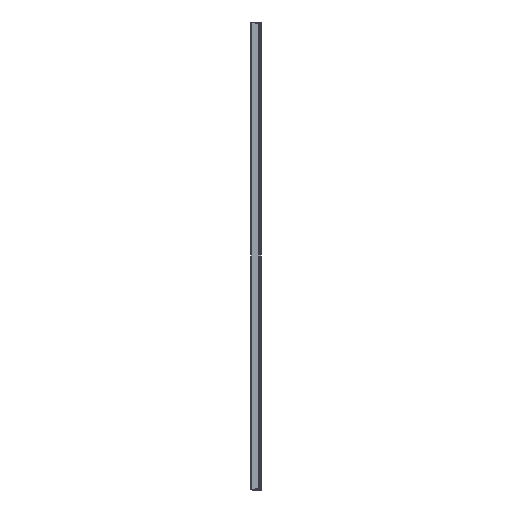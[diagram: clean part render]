
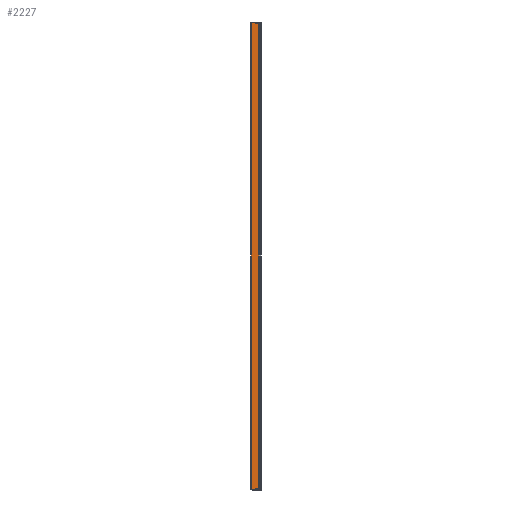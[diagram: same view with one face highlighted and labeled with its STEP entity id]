
A CAD part, left-side view. The second image highlights one B-rep face of the part: STEP entity #2227.
In plain terms, the highlighted planar face has unit normal (-1, 0, 0).
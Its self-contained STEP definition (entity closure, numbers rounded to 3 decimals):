
#241 = ORIENTED_EDGE ( 'NONE', *, *, #14700, .T. ) ;
#244 = VERTEX_POINT ( 'NONE', #9351 ) ;
#558 = DIRECTION ( 'NONE',  ( 0., 0., -1. ) ) ;
#565 = CARTESIAN_POINT ( 'NONE',  ( -19., 10.4, 613.5 ) ) ;
#571 = CARTESIAN_POINT ( 'NONE',  ( -19., 14.2, 612.5 ) ) ;
#597 = CARTESIAN_POINT ( 'NONE',  ( -19., 5.7, 613.5 ) ) ;
#949 = ORIENTED_EDGE ( 'NONE', *, *, #5919, .F. ) ;
#1043 = EDGE_CURVE ( 'NONE', #5433, #5902, #9822, .T. ) ;
#1242 = EDGE_CURVE ( 'NONE', #13716, #3299, #12686, .T. ) ;
#1294 = VERTEX_POINT ( 'NONE', #13798 ) ;
#1308 = DIRECTION ( 'NONE',  ( 0., 0., -1. ) ) ;
#1406 = LINE ( 'NONE', #10851, #13197 ) ;
#1515 = ORIENTED_EDGE ( 'NONE', *, *, #10587, .T. ) ;
#1536 = LINE ( 'NONE', #5309, #12981 ) ;
#1572 = VERTEX_POINT ( 'NONE', #3043 ) ;
#1700 = EDGE_CURVE ( 'NONE', #1294, #11157, #11778, .T. ) ;
#1922 = VECTOR ( 'NONE', #11985, 1000. ) ;
#2092 = CARTESIAN_POINT ( 'NONE',  ( -19., 12.3, -612.5 ) ) ;
#2227 = ADVANCED_FACE ( 'NONE', ( #3907 ), #3133, .T. ) ;
#2341 = CARTESIAN_POINT ( 'NONE',  ( -19., 10.4, 613.5 ) ) ;
#2393 = CARTESIAN_POINT ( 'NONE',  ( -19., 5.7, 613.5 ) ) ;
#2472 = VECTOR ( 'NONE', #11539, 1000. ) ;
#2496 = AXIS2_PLACEMENT_3D ( 'NONE', #11093, #12261, #5408 ) ;
#2672 = VECTOR ( 'NONE', #8961, 1000. ) ;
#2823 = CIRCLE ( 'NONE', #5887, 1.9 ) ;
#2914 = VERTEX_POINT ( 'NONE', #11996 ) ;
#3043 = CARTESIAN_POINT ( 'NONE',  ( -19., 10.4, -612.5 ) ) ;
#3048 = EDGE_CURVE ( 'NONE', #3974, #1572, #1536, .T. ) ;
#3133 = PLANE ( 'NONE',  #2496 ) ;
#3211 = CARTESIAN_POINT ( 'NONE',  ( -19., 12.3, 612.5 ) ) ;
#3264 = DIRECTION ( 'NONE',  ( 0., 0., 1. ) ) ;
#3265 = CARTESIAN_POINT ( 'NONE',  ( -19., 12.3, -612.5 ) ) ;
#3299 = VERTEX_POINT ( 'NONE', #5261 ) ;
#3907 = FACE_OUTER_BOUND ( 'NONE', #4013, .T. ) ;
#3974 = VERTEX_POINT ( 'NONE', #4967 ) ;
#4013 = EDGE_LOOP ( 'NONE', ( #6007, #10816, #241, #14290, #11925, #10446, #4675, #12738, #11529, #949, #1515, #8252, #12758 ) ) ;
#4040 = DIRECTION ( 'NONE',  ( 0., 1., 0. ) ) ;
#4108 = CIRCLE ( 'NONE', #14322, 1.9 ) ;
#4249 = VECTOR ( 'NONE', #558, 1000. ) ;
#4343 = DIRECTION ( 'NONE',  ( 0., 0., -1. ) ) ;
#4417 = DIRECTION ( 'NONE',  ( 0., 0., 1. ) ) ;
#4455 = LINE ( 'NONE', #4875, #10152 ) ;
#4675 = ORIENTED_EDGE ( 'NONE', *, *, #8235, .F. ) ;
#4827 = CARTESIAN_POINT ( 'NONE',  ( -19., 14.2, 612.5 ) ) ;
#4875 = CARTESIAN_POINT ( 'NONE',  ( -19., 5.7, -613.5 ) ) ;
#4967 = CARTESIAN_POINT ( 'NONE',  ( -19., 10.4, -613.5 ) ) ;
#5261 = CARTESIAN_POINT ( 'NONE',  ( -19., 14.2, -613.5 ) ) ;
#5309 = CARTESIAN_POINT ( 'NONE',  ( -19., 10.4, -613.5 ) ) ;
#5408 = DIRECTION ( 'NONE',  ( 0., 0., 1. ) ) ;
#5433 = VERTEX_POINT ( 'NONE', #12777 ) ;
#5887 = AXIS2_PLACEMENT_3D ( 'NONE', #3211, #11166, #4343 ) ;
#5902 = VERTEX_POINT ( 'NONE', #2341 ) ;
#5919 = EDGE_CURVE ( 'NONE', #9977, #2914, #14624, .T. ) ;
#6007 = ORIENTED_EDGE ( 'NONE', *, *, #1700, .F. ) ;
#6031 = CARTESIAN_POINT ( 'NONE',  ( -19., 26.5, 613.5 ) ) ;
#6036 = DIRECTION ( 'NONE',  ( 0., 1., 0. ) ) ;
#6317 = EDGE_CURVE ( 'NONE', #11157, #5433, #2823, .T. ) ;
#6342 = CARTESIAN_POINT ( 'NONE',  ( -19., 5.7, 613.5 ) ) ;
#6364 = CARTESIAN_POINT ( 'NONE',  ( -19., 5.7, 613.5 ) ) ;
#6625 = EDGE_CURVE ( 'NONE', #2914, #3974, #4455, .T. ) ;
#6799 = VECTOR ( 'NONE', #8548, 1000. ) ;
#7396 = VERTEX_POINT ( 'NONE', #6031 ) ;
#7440 = VECTOR ( 'NONE', #4040, 1000. ) ;
#7453 = CARTESIAN_POINT ( 'NONE',  ( -19., 26.5, 613.5 ) ) ;
#7784 = LINE ( 'NONE', #6342, #7440 ) ;
#7786 = CARTESIAN_POINT ( 'NONE',  ( -19., 14.2, -612.5 ) ) ;
#8235 = EDGE_CURVE ( 'NONE', #1572, #244, #4108, .T. ) ;
#8252 = ORIENTED_EDGE ( 'NONE', *, *, #1043, .F. ) ;
#8548 = DIRECTION ( 'NONE',  ( 0., 0., 1. ) ) ;
#8551 = DIRECTION ( 'NONE',  ( 0., 1., 0. ) ) ;
#8672 = EDGE_CURVE ( 'NONE', #3299, #9000, #1406, .T. ) ;
#8881 = CIRCLE ( 'NONE', #11700, 1.9 ) ;
#8961 = DIRECTION ( 'NONE',  ( 0., 0., -1. ) ) ;
#9000 = VERTEX_POINT ( 'NONE', #12600 ) ;
#9283 = EDGE_CURVE ( 'NONE', #1294, #7396, #10675, .T. ) ;
#9351 = CARTESIAN_POINT ( 'NONE',  ( -19., 12.3, -610.6 ) ) ;
#9639 = VECTOR ( 'NONE', #1308, 1000. ) ;
#9822 = LINE ( 'NONE', #565, #6799 ) ;
#9960 = LINE ( 'NONE', #7453, #4249 ) ;
#9977 = VERTEX_POINT ( 'NONE', #6364 ) ;
#10084 = DIRECTION ( 'NONE',  ( -1., 0., 0. ) ) ;
#10152 = VECTOR ( 'NONE', #6036, 1000. ) ;
#10446 = ORIENTED_EDGE ( 'NONE', *, *, #13696, .F. ) ;
#10587 = EDGE_CURVE ( 'NONE', #9977, #5902, #7784, .T. ) ;
#10675 = LINE ( 'NONE', #597, #1922 ) ;
#10816 = ORIENTED_EDGE ( 'NONE', *, *, #9283, .T. ) ;
#10851 = CARTESIAN_POINT ( 'NONE',  ( -19., 5.7, -613.5 ) ) ;
#11093 = CARTESIAN_POINT ( 'NONE',  ( -19., 5.7, 613.5 ) ) ;
#11157 = VERTEX_POINT ( 'NONE', #571 ) ;
#11166 = DIRECTION ( 'NONE',  ( -1., 0., 0. ) ) ;
#11237 = DIRECTION ( 'NONE',  ( -1., 0., 0. ) ) ;
#11529 = ORIENTED_EDGE ( 'NONE', *, *, #6625, .F. ) ;
#11539 = DIRECTION ( 'NONE',  ( 0., 0., -1. ) ) ;
#11617 = CARTESIAN_POINT ( 'NONE',  ( -19., 14.2, -612.5 ) ) ;
#11700 = AXIS2_PLACEMENT_3D ( 'NONE', #2092, #10084, #3264 ) ;
#11778 = LINE ( 'NONE', #4827, #2672 ) ;
#11925 = ORIENTED_EDGE ( 'NONE', *, *, #1242, .F. ) ;
#11985 = DIRECTION ( 'NONE',  ( 0., 1., 0. ) ) ;
#11996 = CARTESIAN_POINT ( 'NONE',  ( -19., 5.7, -613.5 ) ) ;
#12261 = DIRECTION ( 'NONE',  ( -1., 0., 0. ) ) ;
#12600 = CARTESIAN_POINT ( 'NONE',  ( -19., 26.5, -613.5 ) ) ;
#12686 = LINE ( 'NONE', #11617, #9639 ) ;
#12738 = ORIENTED_EDGE ( 'NONE', *, *, #3048, .F. ) ;
#12758 = ORIENTED_EDGE ( 'NONE', *, *, #6317, .F. ) ;
#12777 = CARTESIAN_POINT ( 'NONE',  ( -19., 10.4, 612.5 ) ) ;
#12981 = VECTOR ( 'NONE', #13337, 1000. ) ;
#13197 = VECTOR ( 'NONE', #8551, 1000. ) ;
#13337 = DIRECTION ( 'NONE',  ( 0., 0., 1. ) ) ;
#13696 = EDGE_CURVE ( 'NONE', #244, #13716, #8881, .T. ) ;
#13716 = VERTEX_POINT ( 'NONE', #7786 ) ;
#13798 = CARTESIAN_POINT ( 'NONE',  ( -19., 14.2, 613.5 ) ) ;
#14290 = ORIENTED_EDGE ( 'NONE', *, *, #8672, .F. ) ;
#14322 = AXIS2_PLACEMENT_3D ( 'NONE', #3265, #11237, #4417 ) ;
#14624 = LINE ( 'NONE', #2393, #2472 ) ;
#14700 = EDGE_CURVE ( 'NONE', #7396, #9000, #9960, .T. ) ;
